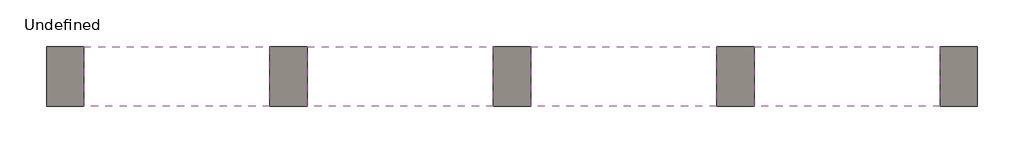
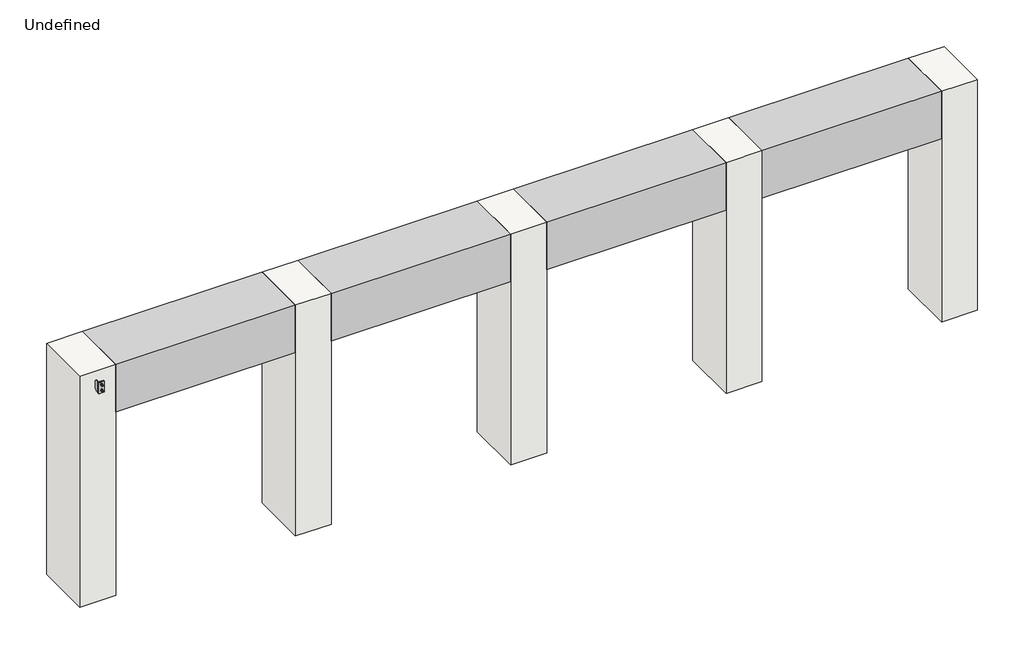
# One storey: 9 assemblies, 5 slabs, 4 beams.
"""IFC4 building model written with IfcOpenShell, lengths in millimetres."""

import ifcopenshell
import ifcopenshell.guid

model = None  # the IFC model being written
_history = None  # IfcOwnerHistory: only IFC2X3 demands one
_inside = {}  # id of a spatial element -> (the spatial element, [elements in it])
_under = {}  # id of a project, library or spatial element -> (it, [spatial elements below it])
_declared = {}  # id of a project -> (the project, [libraries it declares])
_typed = {}  # id of a type object -> (the type object, [elements of that type])
_made_of = {}  # id of a material, layer set ... -> (it, [elements and type objects made of it])


def new_model(schema):
    """Start an empty IFC model of exactly this schema.

    Asked for "IFC4X3", IfcOpenShell would pick the latest addendum, in which some entities
    have other attributes; the version numbers below select the first issue.
    IFC2X3 requires an IfcOwnerHistory on every rooted entity: one is made here for all.
    """
    global model, _history
    if schema == "IFC4X3":
        model = ifcopenshell.file(schema_version=(4, 3, 0, 0))
    else:
        model = ifcopenshell.file(schema=schema)
    _inside.clear()
    _under.clear()
    _declared.clear()
    _typed.clear()
    _made_of.clear()
    _history = None
    if model.schema == "IFC2X3":
        org = make("IfcOrganization", Name="unknown")
        user = make(
            "IfcPersonAndOrganization",
            ThePerson=make("IfcPerson", FamilyName="unknown"),
            TheOrganization=org,
        )
        app = make(
            "IfcApplication",
            ApplicationDeveloper=org,
            Version="unknown",
            ApplicationFullName="unknown",
            ApplicationIdentifier="unknown",
        )
        _history = make(
            "IfcOwnerHistory",
            OwningUser=user,
            OwningApplication=app,
            ChangeAction="ADDED",
            CreationDate=0,
        )
    return model


def make(cls, **values):
    """One entity of the class cls with the attributes given. An attribute that is None is left unset."""
    return model.create_entity(
        cls, **{name: value for name, value in values.items() if value is not None}
    )


def rooted(cls, **values):
    """An entity with a GlobalId (a new one), such as an element, a storey or a relation."""
    return make(cls, GlobalId=ifcopenshell.guid.new(), OwnerHistory=_history, **values)


def si_unit(unit_type, name, prefix=None):
    """IfcSIUnit, for example si_unit("LENGTHUNIT", "METRE", prefix="MILLI")."""
    return make("IfcSIUnit", UnitType=unit_type, Prefix=prefix, Name=name)


def assignment(units):
    """IfcUnitAssignment: the units of a project."""
    return None if units is None else make("IfcUnitAssignment", Units=units)


def point(xyz):
    """IfcCartesianPoint."""
    return None if xyz is None else make("IfcCartesianPoint", Coordinates=xyz)


def direction(xyz):
    """IfcDirection."""
    return None if xyz is None else make("IfcDirection", DirectionRatios=xyz)


def frame(location, z_axis=None, x_axis=None):
    """IfcAxis2Placement3D, a coordinate frame: its origin and axes. An axis left out is left unset."""
    return make(
        "IfcAxis2Placement3D",
        Location=point(location),
        Axis=direction(z_axis),
        RefDirection=direction(x_axis),
    )


def frame_2d(location, x_axis=None):
    """IfcAxis2Placement2D, a coordinate frame in the plane: its origin and x axis."""
    return make(
        "IfcAxis2Placement2D", Location=point(location), RefDirection=direction(x_axis)
    )


def origin():
    """The frame at (0, 0, 0) with its axes left unset."""
    return frame((0.0, 0.0, 0.0))


def origin_with_axes():
    """The frame at (0, 0, 0) with the z axis (0, 0, 1) and the x axis (1, 0, 0) written out."""
    return frame((0.0, 0.0, 0.0), z_axis=(0.0, 0.0, 1.0), x_axis=(1.0, 0.0, 0.0))


def place(relative_to, where):
    """IfcLocalPlacement: puts the frame where relative to a parent placement (None: the world)."""
    return make(
        "IfcLocalPlacement", PlacementRelTo=relative_to, RelativePlacement=where
    )


def context(
    kind, dimensions, precision=None, world=None, true_north=None, identifier=None
):
    """IfcGeometricRepresentationContext, for example the 3D "Model" context."""
    return make(
        "IfcGeometricRepresentationContext",
        ContextIdentifier=identifier,
        ContextType=kind,
        CoordinateSpaceDimension=dimensions,
        Precision=precision,
        WorldCoordinateSystem=world,
        TrueNorth=true_north,
    )


def project(units=None, contexts=None):
    """IfcProject with its units and contexts."""
    return rooted(
        "IfcProject",
        Name="project",
        RepresentationContexts=contexts,
        UnitsInContext=assignment(units),
    )


def spatial(cls, under=None, at=None, **own):
    """A site, building, storey or space (cls), placed at a placement, below another one or the project."""
    s = rooted(cls, ObjectPlacement=at, **own)
    if under is not None:
        _under.setdefault(under.id(), (under, []))[1].append(s)
    return s


def polyline(points):
    """IfcPolyline through the points."""
    return make("IfcPolyline", Points=[point(p) for p in points])


def circle_curve(where, radius):
    """IfcCircle in the frame where."""
    return make("IfcCircle", Position=where, Radius=radius)


def trimmed(basis, trim1, trim2, sense, master):
    """IfcTrimmedCurve: the piece of a basis curve between two trims."""
    return make(
        "IfcTrimmedCurve",
        BasisCurve=basis,
        Trim1=trim1,
        Trim2=trim2,
        SenseAgreement=sense,
        MasterRepresentation=master,
    )


def segment(curve, same_sense, transition):
    """IfcCompositeCurveSegment."""
    return make(
        "IfcCompositeCurveSegment",
        Transition=transition,
        SameSense=same_sense,
        ParentCurve=curve,
    )


def composite_curve(segments, self_intersect=None):
    """IfcCompositeCurve: segments joined end to end."""
    return make("IfcCompositeCurve", Segments=segments, SelfIntersect=self_intersect)


def outline(outer, holes=None, kind="AREA"):
    """IfcArbitraryClosedProfileDef: a profile drawn as a closed curve; with holes, ...WithVoids."""
    if holes is None:
        return make("IfcArbitraryClosedProfileDef", ProfileType=kind, OuterCurve=outer)
    return make(
        "IfcArbitraryProfileDefWithVoids",
        ProfileType=kind,
        OuterCurve=outer,
        InnerCurves=holes,
    )


def extrude(swept, where, along, depth):
    """IfcExtrudedAreaSolid: the profile swept, set in the frame where, extruded along a direction by depth."""
    return make(
        "IfcExtrudedAreaSolid",
        SweptArea=swept,
        Position=where,
        ExtrudedDirection=direction(along),
        Depth=depth,
    )


def shape(context_of_items, identifier, shape_type, items):
    """IfcShapeRepresentation: the items that make up one representation, for example the "Body"."""
    return make(
        "IfcShapeRepresentation",
        ContextOfItems=context_of_items,
        RepresentationIdentifier=identifier,
        RepresentationType=shape_type,
        Items=items,
    )


def made_of(thing, what):
    """Note that an element or type object is made of a material, layer set ...; save() writes the relation."""
    if what is not None:
        _made_of.setdefault(what.id(), (what, []))[1].append(thing)
    return thing


def element(
    cls,
    number,
    at=None,
    inside=None,
    cuts=None,
    type_object=None,
    material=None,
    context=None,
    identifier="Body",
    shape_type=None,
    held_by="IfcProductDefinitionShape",
    body=None,
    shapes=None,
    **own,
):
    """One element of the class cls, such as IfcWall. Its Tag is "e" and its number.

    at: its placement. inside: the storey or other place that contains it. cuts: it is an
    opening in that element (IfcRelVoidsElement). A single representation is given by context,
    identifier, shape_type and body (its items); several are given by shapes. held_by: the class
    of the entity that holds the representations. save() writes the other relations.
    """
    e = rooted(cls, Tag="e%d" % number, ObjectPlacement=at, **own)
    if body is not None:
        shapes = [shape(context, identifier, shape_type, body)]
    if shapes is not None:
        e.Representation = make(held_by, Representations=shapes)
    if inside is not None:
        _inside.setdefault(inside.id(), (inside, []))[1].append(e)
    if cuts is not None:
        rooted(
            "IfcRelVoidsElement", RelatingBuildingElement=cuts, RelatedOpeningElement=e
        )
    if type_object is not None:
        _typed.setdefault(type_object.id(), (type_object, []))[1].append(e)
    return made_of(e, material)


def aggregate(whole, parts):
    """IfcRelAggregates: a whole, such as a stair, and the parts it consists of."""
    return rooted("IfcRelAggregates", RelatingObject=whole, RelatedObjects=parts)


def save(model, path):
    """Write the relations noted so far, then the file.

    IfcRelAggregates (storeys below a building ...), IfcRelContainedInSpatialStructure (elements
    in a storey), IfcRelDefinesByType, IfcRelAssociatesMaterial and IfcRelDeclares: one each for
    every whole, place, type object, material and project.
    """
    for whole, parts in _under.values():
        aggregate(whole, parts)
    for where, things in _inside.values():
        rooted(
            "IfcRelContainedInSpatialStructure",
            RelatedElements=things,
            RelatingStructure=where,
        )
    for kind, things in _typed.values():
        rooted("IfcRelDefinesByType", RelatedObjects=things, RelatingType=kind)
    for what, things in _made_of.values():
        rooted("IfcRelAssociatesMaterial", RelatedObjects=things, RelatingMaterial=what)
    for by, libraries in _declared.values():
        rooted("IfcRelDeclares", RelatingContext=by, RelatedDefinitions=libraries)
    model.write(path)


model = new_model("IFC4")

# Units and contexts
model_context = context("Model", 3, world=origin())
ifc_project = project(units=[si_unit("LENGTHUNIT", "METRE", prefix="MILLI")], contexts=[model_context])

# Site, building, storey
site = spatial("IfcSite", under=ifc_project)
building = spatial("IfcBuilding", under=site)
storey = spatial("IfcBuildingStorey", under=building, Name="Undefined", Elevation=0.0)

# Beams
placement = place(None, origin())
element("IfcBeam", 1, ObjectType="800*700", at=placement, inside=storey, context=model_context, shape_type="SweptSolid", body=[
    extrude(outline(polyline([(2800.0, 3860.0), (300.0, 3860.0), (300.0, 4660.0), (2800.0, 4660.0), (2800.0, 3860.0)])), frame((0.0, 0.0, 2700.0), z_axis=(0.0, 0.0, 1.0), x_axis=(1.0, 0.0, 0.0)), (0.0, 0.0, 1.0), 700.0),
])
element("IfcBeam", 2, ObjectType="800*700", at=placement, inside=storey, context=model_context, shape_type="SweptSolid", body=[
    extrude(outline(polyline([(8800.0, 3860.0), (6300.0, 3860.0), (6300.0, 4660.0), (8800.0, 4660.0), (8800.0, 3860.0)])), frame((0.0, 0.0, 2700.0), z_axis=(0.0, 0.0, 1.0), x_axis=(1.0, 0.0, 0.0)), (0.0, 0.0, 1.0), 700.0),
])
element("IfcBeam", 3, ObjectType="800*700", at=placement, inside=storey, context=model_context, shape_type="SweptSolid", body=[
    extrude(outline(polyline([(11800.0, 3860.0), (9300.0, 3860.0), (9300.0, 4660.0), (11800.0, 4660.0), (11800.0, 3860.0)])), frame((0.0, 0.0, 2700.0), z_axis=(0.0, 0.0, 1.0), x_axis=(1.0, 0.0, 0.0)), (0.0, 0.0, 1.0), 700.0),
])
element("IfcBeam", 4, ObjectType="800*700", at=placement, inside=storey, context=model_context, shape_type="SweptSolid", body=[
    extrude(outline(polyline([(5800.0, 3860.0), (3300.0, 3860.0), (3300.0, 4660.0), (5800.0, 4660.0), (5800.0, 3860.0)])), frame((0.0, 0.0, 2700.0), z_axis=(0.0, 0.0, 1.0), x_axis=(1.0, 0.0, 0.0)), (0.0, 0.0, 1.0), 700.0),
])

# Assemblies
element("IfcElementAssembly", 5, at=placement, inside=storey, context=model_context, shape_type="SweptSolid", body=[
    extrude(outline(polyline([(5800.0, 3860.0), (5800.0, 4660.0), (6300.0, 4660.0), (6300.0, 3860.0), (5800.0, 3860.0)])), origin_with_axes(), (0.0, 0.0, 1.0), 3400.0),
])
element("IfcElementAssembly", 6, at=placement, inside=storey, context=model_context, shape_type="SweptSolid", body=[
    extrude(outline(polyline([(8800.0, 3860.0), (8800.0, 4660.0), (9300.0, 4660.0), (9300.0, 3860.0), (8800.0, 3860.0)])), origin_with_axes(), (0.0, 0.0, 1.0), 3400.0),
])
element("IfcElementAssembly", 7, at=placement, inside=storey, context=model_context, shape_type="SweptSolid", body=[
    extrude(outline(polyline([(11800.0, 3860.0), (11800.0, 4660.0), (12300.0, 4660.0), (12300.0, 3860.0), (11800.0, 3860.0)])), origin_with_axes(), (0.0, 0.0, 1.0), 3400.0),
])
element("IfcElementAssembly", 8, at=placement, inside=storey, context=model_context, shape_type="SweptSolid", body=[
    extrude(outline(polyline([(2800.0, 3860.0), (300.0, 3860.0), (300.0, 4660.0), (2800.0, 4660.0), (2800.0, 3860.0)])), frame((0.0, 0.0, 2700.0), z_axis=(0.0, 0.0, 1.0), x_axis=(1.0, 0.0, 0.0)), (0.0, 0.0, 1.0), 700.0),
])
element("IfcElementAssembly", 9, at=placement, inside=storey, context=model_context, shape_type="SweptSolid", body=[
    extrude(outline(polyline([(8800.0, 3860.0), (6300.0, 3860.0), (6300.0, 4660.0), (8800.0, 4660.0), (8800.0, 3860.0)])), frame((0.0, 0.0, 2700.0), z_axis=(0.0, 0.0, 1.0), x_axis=(1.0, 0.0, 0.0)), (0.0, 0.0, 1.0), 700.0),
])
element("IfcElementAssembly", 10, at=placement, inside=storey, context=model_context, shape_type="SweptSolid", body=[
    extrude(outline(polyline([(11800.0, 3860.0), (9300.0, 3860.0), (9300.0, 4660.0), (11800.0, 4660.0), (11800.0, 3860.0)])), frame((0.0, 0.0, 2700.0), z_axis=(0.0, 0.0, 1.0), x_axis=(1.0, 0.0, 0.0)), (0.0, 0.0, 1.0), 700.0),
])
element("IfcElementAssembly", 11, at=placement, inside=storey, context=model_context, shape_type="SweptSolid", body=[
    extrude(outline(polyline([(2800.0, 3860.0), (2800.0, 4660.0), (3300.0, 4660.0), (3300.0, 3860.0), (2800.0, 3860.0)])), origin_with_axes(), (0.0, 0.0, 1.0), 3400.0),
])
element("IfcElementAssembly", 12, at=placement, inside=storey, context=model_context, shape_type="SweptSolid", body=[
    extrude(outline(polyline([(-200.0, 3860.0), (-200.0, 4660.0), (300.0, 4660.0), (300.0, 3860.0), (-200.0, 3860.0)])), origin_with_axes(), (0.0, 0.0, 1.0), 3400.0),
    extrude(outline(polyline([(85.0, 3775.0), (10.0, 3775.0), (10.0, 3785.0), (85.0, 3785.0), (85.0, 3775.0)])), frame((0.0, 0.0, 3130.0), z_axis=(0.0, 0.0, 1.0), x_axis=(1.0, 0.0, 0.0)), (0.0, 0.0, 1.0), 160.0),
    extrude(outline(polyline([(85.0, 3765.0), (10.0, 3765.0), (10.0, 3775.0), (85.0, 3775.0), (85.0, 3765.0)])), frame((0.0, 0.0, 3130.0), z_axis=(0.0, 0.0, 1.0), x_axis=(1.0, 0.0, 0.0)), (0.0, 0.0, 1.0), 160.0),
    extrude(outline(composite_curve([segment(polyline([(3785.0, 3289.5), (3834.5, 3289.5)]), True, "CONTINUOUS"), segment(trimmed(circle_curve(frame_2d((3854.5, 3289.5)), 20.0), [point((3834.5, 3289.5))], [point((3854.5, 3269.5))], True, "CARTESIAN"), True, "CONTINUOUS"), segment(polyline([(3854.5, 3269.5), (3854.5, 3150.5)]), True, "CONTINUOUS"), segment(trimmed(circle_curve(frame_2d((3854.5, 3130.5)), 20.0), [point((3854.5, 3150.5))], [point((3834.5, 3130.5))], True, "CARTESIAN"), True, "CONTINUOUS"), segment(polyline([(3834.5, 3130.5), (3785.0, 3130.5), (3785.0, 3289.5)]), True, "CONTINUOUS")], self_intersect=False)), frame((15.5, 0.0, 0.0), z_axis=(1.0, 0.0, 0.0), x_axis=(0.0, 1.0, 0.0)), (0.0, 0.0, 1.0), 8.0),
    extrude(outline(composite_curve([segment(trimmed(circle_curve(frame_2d((3170.0, 50.0)), 9.0), [point((3170.0, 41.0))], [point((3170.0, 59.0))], False, "CARTESIAN"), True, "CONTINUOUS"), segment(trimmed(circle_curve(frame_2d((3170.0, 50.0)), 9.0), [point((3170.0, 59.0))], [point((3170.0, 41.0))], False, "CARTESIAN"), True, "CONTINUOUS")], self_intersect=False)), frame((0.0, 3774.9, 0.0), z_axis=(0.0, 1.0, 0.0), x_axis=(0.0, 0.0, 1.0)), (0.0, 0.0, 1.0), 10.0),
    extrude(outline(polyline([(3170.0, 36.1435935), (3158.0, 43.0717968), (3158.0, 56.9282032), (3170.0, 63.8564065), (3182.0, 56.9282032), (3182.0, 43.0717968), (3170.0, 36.1435935)])), frame((0.0, 3788.0, 0.0), z_axis=(0.0, 1.0, 0.0), x_axis=(0.0, 0.0, 1.0)), (0.0, 0.0, 1.0), 10.0),
    extrude(outline(composite_curve([segment(trimmed(circle_curve(frame_2d((3170.0, 50.0)), 8.0), [point((3170.0, 42.0))], [point((3170.0, 58.0))], False, "CARTESIAN"), True, "CONTINUOUS"), segment(trimmed(circle_curve(frame_2d((3170.0, 50.0)), 8.0), [point((3170.0, 58.0))], [point((3170.0, 42.0))], False, "CARTESIAN"), True, "CONTINUOUS")], self_intersect=False)), frame((0.0, 3738.0, 0.0), z_axis=(0.0, 1.0, 0.0), x_axis=(0.0, 0.0, 1.0)), (0.0, 0.0, 1.0), 50.0),
    extrude(outline(composite_curve([segment(trimmed(circle_curve(frame_2d((3170.0, 50.0)), 15.0), [point((3170.0, 35.0))], [point((3170.0, 65.0))], False, "CARTESIAN"), True, "CONTINUOUS"), segment(trimmed(circle_curve(frame_2d((3170.0, 50.0)), 15.0), [point((3170.0, 65.0))], [point((3170.0, 35.0))], False, "CARTESIAN"), True, "CONTINUOUS")], self_intersect=False)), frame((0.0, 3785.0, 0.0), z_axis=(0.0, 1.0, 0.0), x_axis=(0.0, 0.0, 1.0)), (0.0, 0.0, 1.0), 3.0),
    extrude(outline(composite_curve([segment(trimmed(circle_curve(frame_2d((3170.0, 50.0)), 15.0), [point((3170.0, 35.0))], [point((3170.0, 65.0))], False, "CARTESIAN"), True, "CONTINUOUS"), segment(trimmed(circle_curve(frame_2d((3170.0, 50.0)), 15.0), [point((3170.0, 65.0))], [point((3170.0, 35.0))], False, "CARTESIAN"), True, "CONTINUOUS")], self_intersect=False)), frame((0.0, 3762.0, 0.0), z_axis=(0.0, 1.0, 0.0), x_axis=(0.0, 0.0, 1.0)), (0.0, 0.0, 1.0), 3.0),
    extrude(outline(polyline([(3170.0, 34.5558803), (3156.625, 42.2779401), (3156.625, 57.7220599), (3170.0, 65.4441197), (3183.375, 57.7220599), (3183.375, 42.2779401), (3170.0, 34.5558803)])), frame((0.0, 3749.0, 0.0), z_axis=(0.0, 1.0, 0.0), x_axis=(0.0, 0.0, 1.0)), (0.0, 0.0, 1.0), 13.0),
    extrude(outline(composite_curve([segment(trimmed(circle_curve(frame_2d((3170.0, 50.0)), 9.0), [point((3170.0, 41.0))], [point((3170.0, 59.0))], False, "CARTESIAN"), True, "CONTINUOUS"), segment(trimmed(circle_curve(frame_2d((3170.0, 50.0)), 9.0), [point((3170.0, 59.0))], [point((3170.0, 41.0))], False, "CARTESIAN"), True, "CONTINUOUS")], self_intersect=False)), frame((0.0, 3765.0, 0.0), z_axis=(0.0, 1.0, 0.0), x_axis=(0.0, 0.0, 1.0)), (0.0, 0.0, 1.0), 10.1),
    extrude(outline(composite_curve([segment(trimmed(circle_curve(frame_2d((3250.0, 50.0)), 9.0), [point((3250.0, 41.0))], [point((3250.0, 59.0))], False, "CARTESIAN"), True, "CONTINUOUS"), segment(trimmed(circle_curve(frame_2d((3250.0, 50.0)), 9.0), [point((3250.0, 59.0))], [point((3250.0, 41.0))], False, "CARTESIAN"), True, "CONTINUOUS")], self_intersect=False)), frame((0.0, 3774.9, 0.0), z_axis=(0.0, 1.0, 0.0), x_axis=(0.0, 0.0, 1.0)), (0.0, 0.0, 1.0), 10.0),
    extrude(outline(polyline([(3250.0, 36.1435935), (3238.0, 43.0717968), (3238.0, 56.9282032), (3250.0, 63.8564065), (3262.0, 56.9282032), (3262.0, 43.0717968), (3250.0, 36.1435935)])), frame((0.0, 3788.0, 0.0), z_axis=(0.0, 1.0, 0.0), x_axis=(0.0, 0.0, 1.0)), (0.0, 0.0, 1.0), 10.0),
    extrude(outline(composite_curve([segment(trimmed(circle_curve(frame_2d((3250.0, 50.0)), 8.0), [point((3250.0, 42.0))], [point((3250.0, 58.0))], False, "CARTESIAN"), True, "CONTINUOUS"), segment(trimmed(circle_curve(frame_2d((3250.0, 50.0)), 8.0), [point((3250.0, 58.0))], [point((3250.0, 42.0))], False, "CARTESIAN"), True, "CONTINUOUS")], self_intersect=False)), frame((0.0, 3738.0, 0.0), z_axis=(0.0, 1.0, 0.0), x_axis=(0.0, 0.0, 1.0)), (0.0, 0.0, 1.0), 50.0),
    extrude(outline(composite_curve([segment(trimmed(circle_curve(frame_2d((3250.0, 50.0)), 15.0), [point((3250.0, 35.0))], [point((3250.0, 65.0))], False, "CARTESIAN"), True, "CONTINUOUS"), segment(trimmed(circle_curve(frame_2d((3250.0, 50.0)), 15.0), [point((3250.0, 65.0))], [point((3250.0, 35.0))], False, "CARTESIAN"), True, "CONTINUOUS")], self_intersect=False)), frame((0.0, 3785.0, 0.0), z_axis=(0.0, 1.0, 0.0), x_axis=(0.0, 0.0, 1.0)), (0.0, 0.0, 1.0), 3.0),
    extrude(outline(composite_curve([segment(trimmed(circle_curve(frame_2d((3250.0, 50.0)), 15.0), [point((3250.0, 35.0))], [point((3250.0, 65.0))], False, "CARTESIAN"), True, "CONTINUOUS"), segment(trimmed(circle_curve(frame_2d((3250.0, 50.0)), 15.0), [point((3250.0, 65.0))], [point((3250.0, 35.0))], False, "CARTESIAN"), True, "CONTINUOUS")], self_intersect=False)), frame((0.0, 3762.0, 0.0), z_axis=(0.0, 1.0, 0.0), x_axis=(0.0, 0.0, 1.0)), (0.0, 0.0, 1.0), 3.0),
    extrude(outline(polyline([(3250.0, 34.5558803), (3236.625, 42.2779401), (3236.625, 57.7220599), (3250.0, 65.4441197), (3263.375, 57.7220599), (3263.375, 42.2779401), (3250.0, 34.5558803)])), frame((0.0, 3749.0, 0.0), z_axis=(0.0, 1.0, 0.0), x_axis=(0.0, 0.0, 1.0)), (0.0, 0.0, 1.0), 13.0),
    extrude(outline(composite_curve([segment(trimmed(circle_curve(frame_2d((3250.0, 50.0)), 9.0), [point((3250.0, 41.0))], [point((3250.0, 59.0))], False, "CARTESIAN"), True, "CONTINUOUS"), segment(trimmed(circle_curve(frame_2d((3250.0, 50.0)), 9.0), [point((3250.0, 59.0))], [point((3250.0, 41.0))], False, "CARTESIAN"), True, "CONTINUOUS")], self_intersect=False)), frame((0.0, 3765.0, 0.0), z_axis=(0.0, 1.0, 0.0), x_axis=(0.0, 0.0, 1.0)), (0.0, 0.0, 1.0), 10.1),
])
element("IfcElementAssembly", 13, at=placement, inside=storey, context=model_context, shape_type="SweptSolid", body=[
    extrude(outline(polyline([(5800.0, 3860.0), (3300.0, 3860.0), (3300.0, 4660.0), (5800.0, 4660.0), (5800.0, 3860.0)])), frame((0.0, 0.0, 2700.0), z_axis=(0.0, 0.0, 1.0), x_axis=(1.0, 0.0, 0.0)), (0.0, 0.0, 1.0), 700.0),
])

# Slabs
element("IfcSlab", 14, ObjectType="3400*500", at=placement, inside=storey, context=model_context, shape_type="SweptSolid", body=[
    extrude(outline(polyline([(5800.0, 3860.0), (5800.0, 4660.0), (6300.0, 4660.0), (6300.0, 3860.0), (5800.0, 3860.0)])), origin_with_axes(), (0.0, 0.0, 1.0), 3400.0),
])
element("IfcSlab", 15, ObjectType="3400*500", at=placement, inside=storey, context=model_context, shape_type="SweptSolid", body=[
    extrude(outline(polyline([(8800.0, 3860.0), (8800.0, 4660.0), (9300.0, 4660.0), (9300.0, 3860.0), (8800.0, 3860.0)])), origin_with_axes(), (0.0, 0.0, 1.0), 3400.0),
])
element("IfcSlab", 16, ObjectType="3400*500", at=placement, inside=storey, context=model_context, shape_type="SweptSolid", body=[
    extrude(outline(polyline([(11800.0, 3860.0), (11800.0, 4660.0), (12300.0, 4660.0), (12300.0, 3860.0), (11800.0, 3860.0)])), origin_with_axes(), (0.0, 0.0, 1.0), 3400.0),
])
element("IfcSlab", 17, ObjectType="3400*500", at=placement, inside=storey, context=model_context, shape_type="SweptSolid", body=[
    extrude(outline(polyline([(2800.0, 3860.0), (2800.0, 4660.0), (3300.0, 4660.0), (3300.0, 3860.0), (2800.0, 3860.0)])), origin_with_axes(), (0.0, 0.0, 1.0), 3400.0),
])
element("IfcSlab", 18, ObjectType="3400*500", at=placement, inside=storey, context=model_context, shape_type="SweptSolid", body=[
    extrude(outline(polyline([(-200.0, 3860.0), (-200.0, 4660.0), (300.0, 4660.0), (300.0, 3860.0), (-200.0, 3860.0)])), origin_with_axes(), (0.0, 0.0, 1.0), 3400.0),
])

save(model, "model.ifc")
